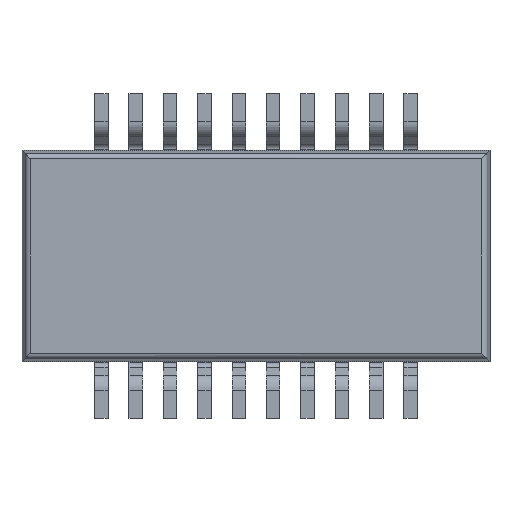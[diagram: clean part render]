
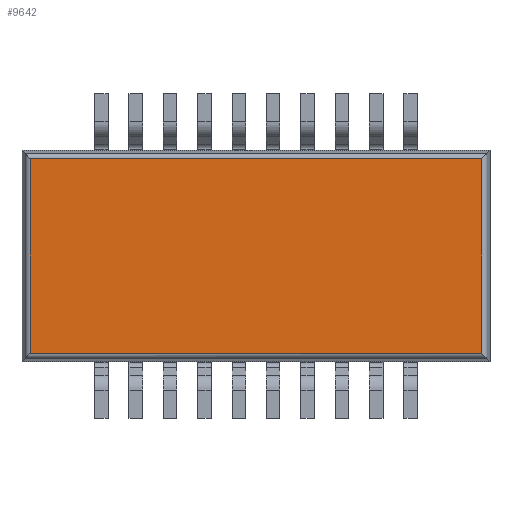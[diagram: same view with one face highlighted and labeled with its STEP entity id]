
A CAD part, front view. The second image highlights one B-rep face of the part: STEP entity #9642.
In plain terms, the highlighted planar face has unit normal (0, -1, 0).
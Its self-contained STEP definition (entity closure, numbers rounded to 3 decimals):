
#9603 = CARTESIAN_POINT ( 'NONE',  ( 4.171, 0.1, -1.796 ) ) ;
#9604 = VERTEX_POINT ( 'NONE', #9603 ) ;
#9605 = CARTESIAN_POINT ( 'NONE',  ( 4.171, 0.1, 1.796 ) ) ;
#9606 = VERTEX_POINT ( 'NONE', #9605 ) ;
#9607 = CARTESIAN_POINT ( 'NONE',  ( 4.171, 0.1, 0. ) ) ;
#9608 = DIRECTION ( 'NONE',  ( 0., 0., 1. ) ) ;
#9609 = VECTOR ( 'NONE', #9608, 1000. ) ;
#9610 = LINE ( 'NONE', #9607, #9609 ) ;
#9611 = EDGE_CURVE ( 'NONE', #9604, #9606, #9610, .T. ) ;
#9612 = ORIENTED_EDGE ( 'NONE', *, *, #9611, .T. ) ;
#9613 = CARTESIAN_POINT ( 'NONE',  ( -4.171, 0.1, 1.796 ) ) ;
#9614 = VERTEX_POINT ( 'NONE', #9613 ) ;
#9615 = CARTESIAN_POINT ( 'NONE',  ( 0., 0.1, 1.796 ) ) ;
#9616 = DIRECTION ( 'NONE',  ( -1., 0., 0. ) ) ;
#9617 = VECTOR ( 'NONE', #9616, 1000. ) ;
#9618 = LINE ( 'NONE', #9615, #9617 ) ;
#9619 = EDGE_CURVE ( 'NONE', #9606, #9614, #9618, .T. ) ;
#9620 = ORIENTED_EDGE ( 'NONE', *, *, #9619, .T. ) ;
#9621 = CARTESIAN_POINT ( 'NONE',  ( -4.171, 0.1, -1.796 ) ) ;
#9622 = VERTEX_POINT ( 'NONE', #9621 ) ;
#9623 = CARTESIAN_POINT ( 'NONE',  ( -4.171, 0.1, 0. ) ) ;
#9624 = DIRECTION ( 'NONE',  ( 0., 0., -1. ) ) ;
#9625 = VECTOR ( 'NONE', #9624, 1000. ) ;
#9626 = LINE ( 'NONE', #9623, #9625 ) ;
#9627 = EDGE_CURVE ( 'NONE', #9614, #9622, #9626, .T. ) ;
#9628 = ORIENTED_EDGE ( 'NONE', *, *, #9627, .T. ) ;
#9629 = CARTESIAN_POINT ( 'NONE',  ( 0., 0.1, -1.796 ) ) ;
#9630 = DIRECTION ( 'NONE',  ( 1., 0., 0. ) ) ;
#9631 = VECTOR ( 'NONE', #9630, 1000. ) ;
#9632 = LINE ( 'NONE', #9629, #9631 ) ;
#9633 = EDGE_CURVE ( 'NONE', #9622, #9604, #9632, .T. ) ;
#9634 = ORIENTED_EDGE ( 'NONE', *, *, #9633, .T. ) ;
#9635 = EDGE_LOOP ( 'NONE', ( #9612, #9620, #9628, #9634 ) ) ;
#9636 = FACE_OUTER_BOUND ( 'NONE', #9635, .T. ) ;
#9637 = CARTESIAN_POINT ( 'NONE',  ( 0., 0.1, 0. ) ) ;
#9638 = DIRECTION ( 'NONE',  ( 0., -1., 0. ) ) ;
#9639 = DIRECTION ( 'NONE',  ( 0., 0., -1. ) ) ;
#9640 = AXIS2_PLACEMENT_3D ( 'NONE', #9637, #9638, #9639 ) ;
#9641 = PLANE ( 'NONE', #9640 ) ;
#9642 = ADVANCED_FACE ( 'NONE', ( #9636 ), #9641, .T. ) ;
